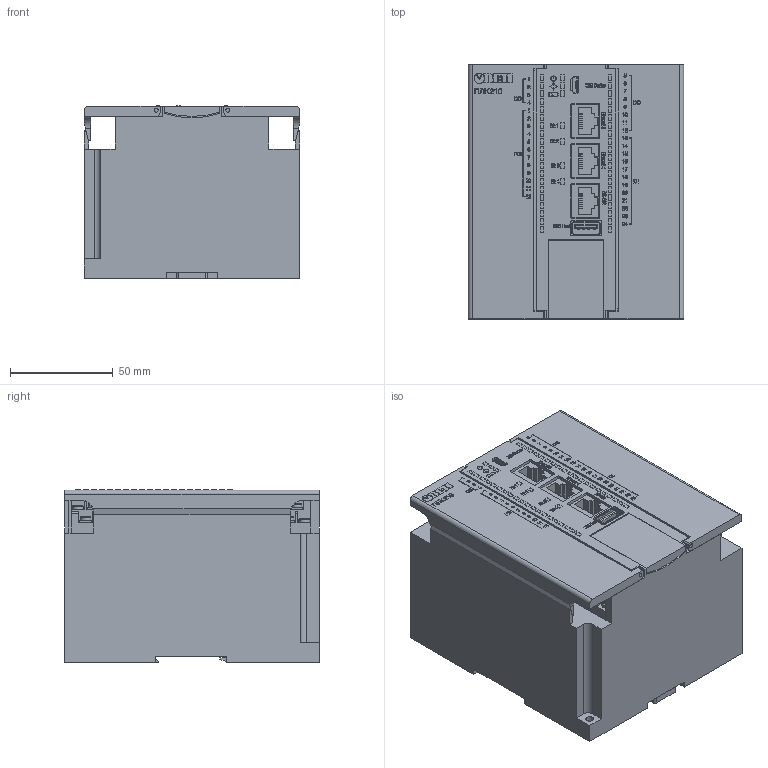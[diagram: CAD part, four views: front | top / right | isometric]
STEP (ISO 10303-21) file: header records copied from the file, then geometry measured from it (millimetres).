
FILE_DESCRIPTION (( 'STEP AP214' ), '1' );
FILE_NAME ('3D ìîäåëü ÏËÊ210-02-CS.STEP', '2020-07-13T11:30:18', ( '' ), ( '' ), 'SwSTEP 2.0', 'SolidWorks 2015', '' );
FILE_SCHEMA (( 'AUTOMOTIVE_DESIGN' ));
Length unit declared in the file: millimetre
Products named in the file (14): Êîðïóñ ÏËÊ210_00; Êðûøêà_êëåììíàÿ_00; Êðûøêà_êëåììíàÿ_ïðàâàÿ-02_00; Ôèêñàòîð ÏËÊ210; 署赅-耠铗钼_00; micro usb b; SD-card_00; 3D ìîäåëü ÏËÊ210-02-CS; Ðîçåòêà ÏËÊ210; Ethernet; Êëåììíèê 2çåë; Ïåðåêëþ÷àòåëü ñòàðò_ñòîï_00; 咈斀霠罻_00; USB A
Assembly tree (20 placements, depth 2):
  3D ìîäåëü ÏËÊ210-02-CS
    Êîðïóñ ÏËÊ210_00
    Ethernet  x5
    Êëåììíèê 2çåë  x2
    USB A
    Ôèêñàòîð ÏËÊ210
    micro usb b
    Ðîçåòêà ÏËÊ210  x2
    署赅-耠铗钼_00
    Êðûøêà_êëåììíàÿ_00
    Êðûøêà_êëåììíàÿ_ïðàâàÿ-02_00
    Ïåðåêëþ÷àòåëü ñòàðò_ñòîï_00
    咈斀霠罻_00  x2
    SD-card_00
Bounding box: 105 x 124.01 x 84.2 mm (x, y, z)
Volume: 940157.4 mm3; surface area: 154807.6 mm2
Topology: 81 solids, 81 shells, 10691 faces, 30371 edges, 20251 vertices
Faces by surface type: plane 10202, cylinder 253, torus 116, cone 116, bspline 4
Full cylindrical faces by diameter (mm): 1 x2, 1.2 x2, 2 x12, 3.7 x2, 5.2 x56, 5.5 x4
Entity records: 409434 total; most frequent: CARTESIAN_POINT 57014, ORIENTED_EDGE 55104, DIRECTION 47182, EDGE_CURVE 27552, VECTOR 26558, LINE 26558, VERTEX_POINT 18392, AXIS2_PLACEMENT_3D 10312
